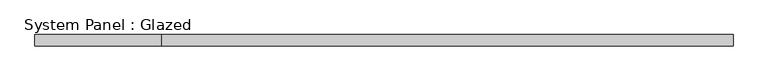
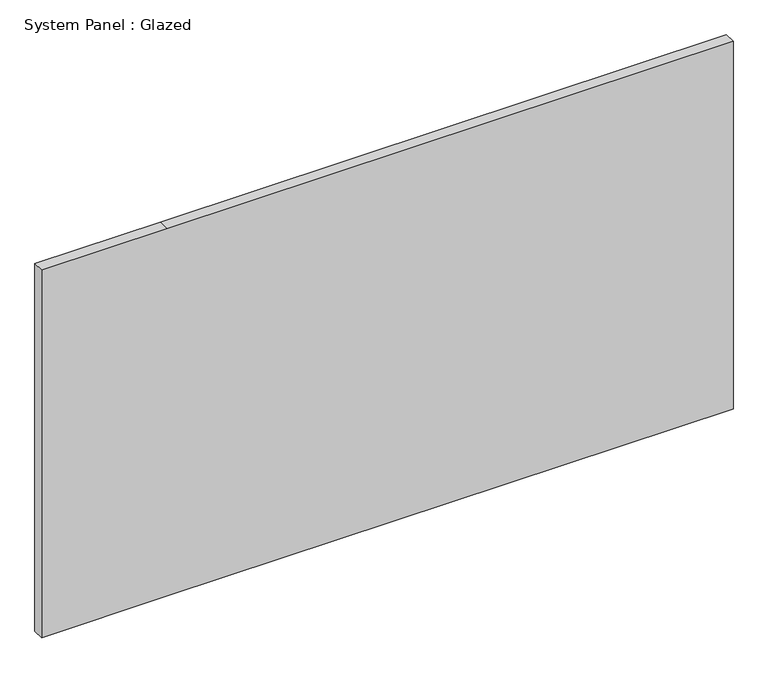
"""IFC4 building model written with IfcOpenShell, lengths in millimetres: plate geometry, System Panel : Glazed."""

from ifc_helpers import new_model, si_unit, frame, origin, place, context, project, spatial, polyline, outline, extrude, source, transform, mapped, element, save


def system_panel_glazed_9909c948(model_context):
    return source(origin(), model_context, "Body", "SweptSolid", [
        extrude(outline(polyline([(0.0, -768.35), (0.0, -488.95), (0.0, 768.35), (863.6, 768.35), (863.6, -488.95), (863.6, -768.35), (0.0, -768.35)])), frame((0.0, -44.45, 0.0), z_axis=(0.0, 1.0, 0.0), x_axis=(0.0, 0.0, 1.0)), (0.0, 0.0, 1.0), 25.4),
    ])


if __name__ == "__main__":
    model = new_model("IFC4")
    model_context = context("Model", 3, world=origin())
    ifc_project = project(units=[si_unit("LENGTHUNIT", "METRE", prefix="MILLI")], contexts=[model_context])
    site = spatial("IfcSite", under=ifc_project)
    building = spatial("IfcBuilding", under=site)
    placement = place(None, origin())
    system_panel_glazed_shape = system_panel_glazed_9909c948(model_context)
    element("IfcPlate", 1, ObjectType="System Panel : Glazed", at=placement, inside=building, context=model_context, shape_type="MappedRepresentation", body=[
        mapped(system_panel_glazed_shape, transform((0.0, 0.0, 0.0), x_axis=(1.0, 0.0, 0.0), y_axis=(0.0, 1.0, 0.0), z_axis=(0.0, 0.0, 1.0))),
    ])
    save(model, "model.ifc")
